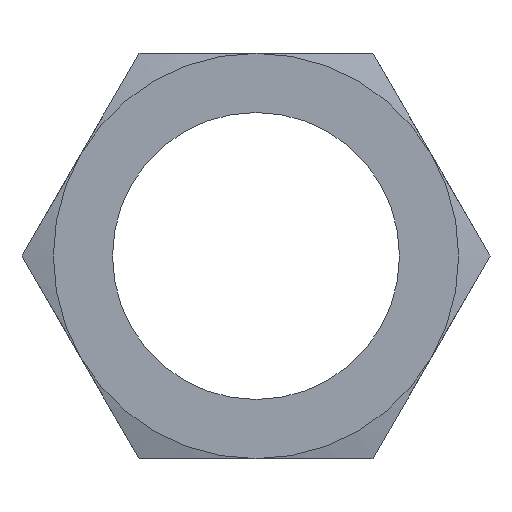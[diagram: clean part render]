
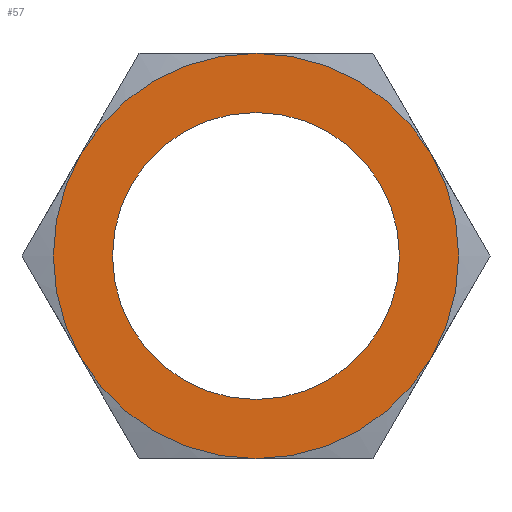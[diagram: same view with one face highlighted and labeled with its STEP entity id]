
A CAD part, front view. The second image highlights one B-rep face of the part: STEP entity #57.
In plain terms, the highlighted planar face has unit normal (0, -1, 0).
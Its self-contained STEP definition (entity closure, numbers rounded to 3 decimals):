
#57=ADVANCED_FACE('',(#237,#239),#241,.F.);
#237=FACE_BOUND('',#238,.T.);
#238=EDGE_LOOP('',(#386,#387,#388,#389,#390,#391));
#239=FACE_BOUND('',#240,.T.);
#240=EDGE_LOOP('',(#392));
#241=PLANE('',#242);
#242=AXIS2_PLACEMENT_3D('',#243,#244,#245);
#243=CARTESIAN_POINT('',(0.,0.,0.));
#244=DIRECTION('',(0.,1.,0.));
#245=DIRECTION('',(-1.,0.,0.));
#386=ORIENTED_EDGE('',*,*,#460,.T.);
#387=ORIENTED_EDGE('',*,*,#461,.T.);
#388=ORIENTED_EDGE('',*,*,#462,.T.);
#389=ORIENTED_EDGE('',*,*,#463,.T.);
#390=ORIENTED_EDGE('',*,*,#464,.T.);
#391=ORIENTED_EDGE('',*,*,#465,.T.);
#392=ORIENTED_EDGE('',*,*,#466,.T.);
#460=EDGE_CURVE('',#499,#500,#501,.F.);
#461=EDGE_CURVE('',#500,#502,#503,.F.);
#462=EDGE_CURVE('',#502,#504,#505,.F.);
#463=EDGE_CURVE('',#504,#506,#507,.F.);
#464=EDGE_CURVE('',#506,#508,#509,.F.);
#465=EDGE_CURVE('',#508,#499,#510,.F.);
#466=EDGE_CURVE('',#511,#511,#512,.F.);
#499=VERTEX_POINT('',#567);
#500=VERTEX_POINT('',#568);
#501=CIRCLE('',#569,6.);
#502=VERTEX_POINT('',#573);
#503=CIRCLE('',#574,6.);
#504=VERTEX_POINT('',#578);
#505=CIRCLE('',#579,6.);
#506=VERTEX_POINT('',#583);
#507=CIRCLE('',#584,6.);
#508=VERTEX_POINT('',#588);
#509=CIRCLE('',#589,6.);
#510=CIRCLE('',#593,6.);
#511=VERTEX_POINT('',#597);
#512=CIRCLE('',#598,4.25);
#567=CARTESIAN_POINT('',(-5.196,0.,3.));
#568=CARTESIAN_POINT('',(-5.196,0.,-3.));
#569=AXIS2_PLACEMENT_3D('',#570,#571,#572);
#570=CARTESIAN_POINT('',(0.,0.,0.));
#571=DIRECTION('',(0.,1.,0.));
#572=DIRECTION('',(-0.866,0.,-0.5));
#573=CARTESIAN_POINT('',(0.,0.,-6.));
#574=AXIS2_PLACEMENT_3D('',#575,#576,#577);
#575=CARTESIAN_POINT('',(0.,0.,0.));
#576=DIRECTION('',(0.,1.,0.));
#577=DIRECTION('',(0.,0.,-1.));
#578=CARTESIAN_POINT('',(5.196,0.,-3.));
#579=AXIS2_PLACEMENT_3D('',#580,#581,#582);
#580=CARTESIAN_POINT('',(0.,0.,0.));
#581=DIRECTION('',(0.,1.,0.));
#582=DIRECTION('',(0.866,0.,-0.5));
#583=CARTESIAN_POINT('',(5.196,0.,3.));
#584=AXIS2_PLACEMENT_3D('',#585,#586,#587);
#585=CARTESIAN_POINT('',(0.,0.,0.));
#586=DIRECTION('',(0.,1.,0.));
#587=DIRECTION('',(0.866,0.,0.5));
#588=CARTESIAN_POINT('',(0.,0.,6.));
#589=AXIS2_PLACEMENT_3D('',#590,#591,#592);
#590=CARTESIAN_POINT('',(0.,0.,0.));
#591=DIRECTION('',(0.,1.,0.));
#592=DIRECTION('',(0.,0.,1.));
#593=AXIS2_PLACEMENT_3D('',#594,#595,#596);
#594=CARTESIAN_POINT('',(0.,0.,0.));
#595=DIRECTION('',(0.,1.,0.));
#596=DIRECTION('',(-0.866,0.,0.5));
#597=CARTESIAN_POINT('',(-4.25,0.,0.));
#598=AXIS2_PLACEMENT_3D('',#599,#600,#601);
#599=CARTESIAN_POINT('',(0.,0.,0.));
#600=DIRECTION('',(0.,-1.,0.));
#601=DIRECTION('',(-1.,0.,0.));
